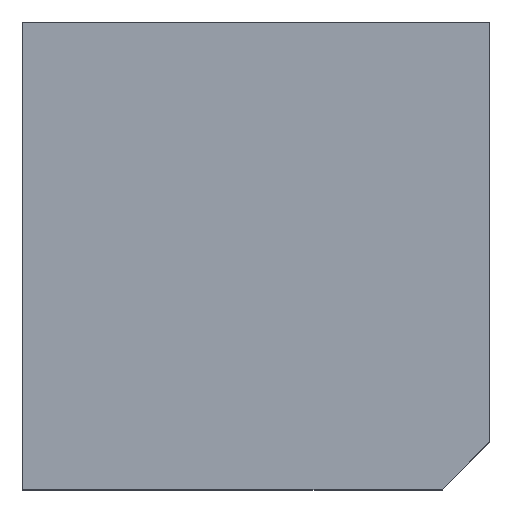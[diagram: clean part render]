
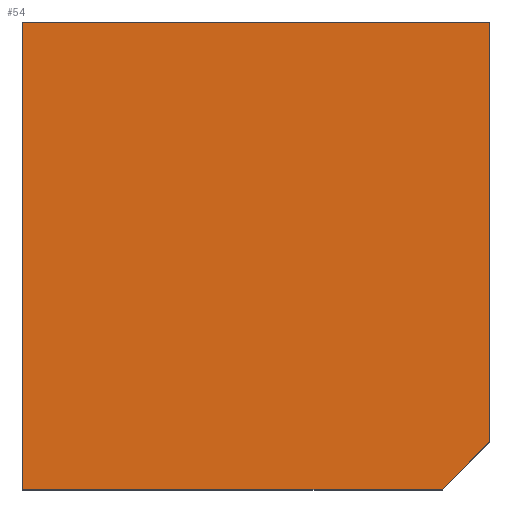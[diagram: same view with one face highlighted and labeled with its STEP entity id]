
A CAD part, top view. The second image highlights one B-rep face of the part: STEP entity #54.
In plain terms, the highlighted planar face has unit normal (0, 0, 1).
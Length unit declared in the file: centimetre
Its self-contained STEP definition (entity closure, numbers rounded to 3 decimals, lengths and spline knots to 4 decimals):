
#23 = CARTESIAN_POINT ( 'NONE',  ( 0., 0., 1000. ) ) ;
#29 = LINE ( 'NONE', #465, #522 ) ;
#33 = ORIENTED_EDGE ( 'NONE', *, *, #1227, .T. ) ;
#54 = ADVANCED_FACE ( 'NONE', ( #1226 ), #786, .T. ) ;
#86 = VERTEX_POINT ( 'NONE', #165 ) ;
#93 = VECTOR ( 'NONE', #446, 100. ) ;
#107 = AXIS2_PLACEMENT_3D ( 'NONE', #1351, #676, #258 ) ;
#131 = CARTESIAN_POINT ( 'NONE',  ( 0., 1000., 1000. ) ) ;
#159 = CARTESIAN_POINT ( 'NONE',  ( 1000., 1000., 1000. ) ) ;
#165 = CARTESIAN_POINT ( 'NONE',  ( 1000., 1000., 1000. ) ) ;
#194 = EDGE_LOOP ( 'NONE', ( #1213, #813, #33, #986, #885 ) ) ;
#258 = DIRECTION ( 'NONE',  ( 1., 0., 0. ) ) ;
#271 = LINE ( 'NONE', #131, #1050 ) ;
#328 = EDGE_CURVE ( 'NONE', #971, #519, #674, .T. ) ;
#404 = EDGE_CURVE ( 'NONE', #519, #1398, #29, .T. ) ;
#446 = DIRECTION ( 'NONE',  ( 1., 0., 0. ) ) ;
#464 = DIRECTION ( 'NONE',  ( 0., 1., 0. ) ) ;
#465 = CARTESIAN_POINT ( 'NONE',  ( 449.3454, -449.3454, 1000. ) ) ;
#487 = CARTESIAN_POINT ( 'NONE',  ( 1000., 101.3091, 1000. ) ) ;
#493 = CARTESIAN_POINT ( 'NONE',  ( 0., 0., 1000. ) ) ;
#519 = VERTEX_POINT ( 'NONE', #697 ) ;
#522 = VECTOR ( 'NONE', #614, 100. ) ;
#528 = VECTOR ( 'NONE', #1199, 100. ) ;
#559 = CARTESIAN_POINT ( 'NONE',  ( 0., 1000., 1000. ) ) ;
#614 = DIRECTION ( 'NONE',  ( 0.707, 0.707, 0. ) ) ;
#674 = LINE ( 'NONE', #23, #93 ) ;
#676 = DIRECTION ( 'NONE',  ( 0., 0., 1. ) ) ;
#687 = EDGE_CURVE ( 'NONE', #86, #1200, #1092, .T. ) ;
#697 = CARTESIAN_POINT ( 'NONE',  ( 898.6909, 0., 1000. ) ) ;
#786 = PLANE ( 'NONE',  #107 ) ;
#813 = ORIENTED_EDGE ( 'NONE', *, *, #404, .T. ) ;
#885 = ORIENTED_EDGE ( 'NONE', *, *, #1410, .T. ) ;
#971 = VERTEX_POINT ( 'NONE', #493 ) ;
#986 = ORIENTED_EDGE ( 'NONE', *, *, #687, .T. ) ;
#1008 = LINE ( 'NONE', #159, #1119 ) ;
#1035 = CARTESIAN_POINT ( 'NONE',  ( 0., 1000., 1000. ) ) ;
#1050 = VECTOR ( 'NONE', #1367, 100. ) ;
#1092 = LINE ( 'NONE', #559, #528 ) ;
#1119 = VECTOR ( 'NONE', #464, 100. ) ;
#1199 = DIRECTION ( 'NONE',  ( -1., 0., 0. ) ) ;
#1200 = VERTEX_POINT ( 'NONE', #1035 ) ;
#1213 = ORIENTED_EDGE ( 'NONE', *, *, #328, .T. ) ;
#1226 = FACE_OUTER_BOUND ( 'NONE', #194, .T. ) ;
#1227 = EDGE_CURVE ( 'NONE', #1398, #86, #1008, .T. ) ;
#1351 = CARTESIAN_POINT ( 'NONE',  ( 0., 0., 1000. ) ) ;
#1367 = DIRECTION ( 'NONE',  ( 0., -1., 0. ) ) ;
#1398 = VERTEX_POINT ( 'NONE', #487 ) ;
#1410 = EDGE_CURVE ( 'NONE', #1200, #971, #271, .T. ) ;
